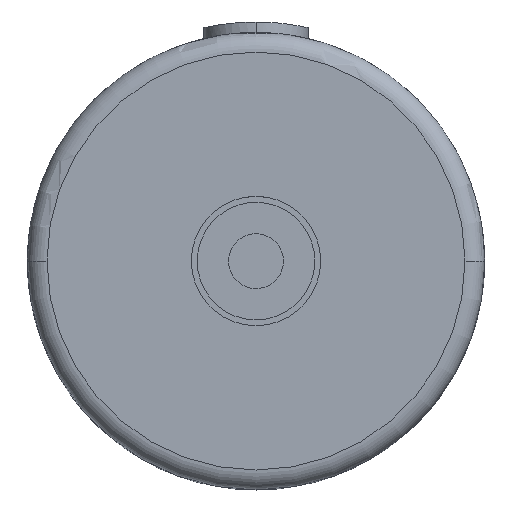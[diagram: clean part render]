
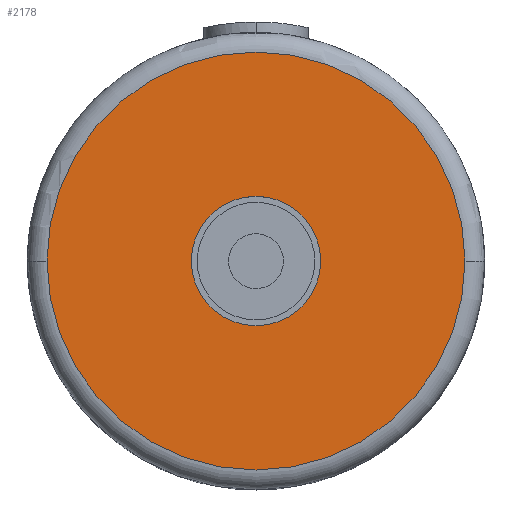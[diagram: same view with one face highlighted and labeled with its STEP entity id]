
A CAD part, top view. The second image highlights one B-rep face of the part: STEP entity #2178.
In plain terms, the highlighted planar face has unit normal (0, 0, 1).
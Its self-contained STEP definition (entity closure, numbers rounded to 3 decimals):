
#166 = FACE_OUTER_BOUND ( 'NONE', #5112, .T. ) ;
#362 = CARTESIAN_POINT ( 'NONE',  ( -6.372, 2.581, 53.246 ) ) ;
#383 = AXIS2_PLACEMENT_3D ( 'NONE', #6067, #6095, #2222 ) ;
#564 = DIRECTION ( 'NONE',  ( 1., 0., 0. ) ) ;
#608 = VERTEX_POINT ( 'NONE', #5330 ) ;
#673 = CARTESIAN_POINT ( 'NONE',  ( -6.372, 2.581, 53.246 ) ) ;
#713 = CARTESIAN_POINT ( 'NONE',  ( -22.372, 2.581, 53.246 ) ) ;
#784 = DIRECTION ( 'NONE',  ( 0., 0., 1. ) ) ;
#821 = DIRECTION ( 'NONE',  ( 1., 0., 0. ) ) ;
#826 = FACE_BOUND ( 'NONE', #2701, .T. ) ;
#1134 = CARTESIAN_POINT ( 'NONE',  ( 9.628, 2.581, 53.246 ) ) ;
#1161 = CIRCLE ( 'NONE', #2981, 16. ) ;
#1274 = EDGE_CURVE ( 'NONE', #608, #1619, #6155, .T. ) ;
#1617 = DIRECTION ( 'NONE',  ( 1., 0., 0. ) ) ;
#1619 = VERTEX_POINT ( 'NONE', #2289 ) ;
#1813 = CIRCLE ( 'NONE', #2350, 16. ) ;
#2090 = EDGE_CURVE ( 'NONE', #2255, #3087, #1813, .T. ) ;
#2144 = CARTESIAN_POINT ( 'NONE',  ( -6.372, 2.581, 53.246 ) ) ;
#2178 = ADVANCED_FACE ( 'NONE', ( #166, #826 ), #5439, .F. ) ;
#2222 = DIRECTION ( 'NONE',  ( 1., 0., 0. ) ) ;
#2238 = EDGE_CURVE ( 'NONE', #3087, #2255, #1161, .T. ) ;
#2255 = VERTEX_POINT ( 'NONE', #713 ) ;
#2270 = ORIENTED_EDGE ( 'NONE', *, *, #1274, .T. ) ;
#2289 = CARTESIAN_POINT ( 'NONE',  ( -1.422, 2.581, 53.246 ) ) ;
#2350 = AXIS2_PLACEMENT_3D ( 'NONE', #362, #784, #821 ) ;
#2546 = ORIENTED_EDGE ( 'NONE', *, *, #5764, .T. ) ;
#2701 = EDGE_LOOP ( 'NONE', ( #2546, #2270 ) ) ;
#2953 = CARTESIAN_POINT ( 'NONE',  ( -6.372, 2.581, 53.246 ) ) ;
#2981 = AXIS2_PLACEMENT_3D ( 'NONE', #673, #3574, #3506 ) ;
#3070 = DIRECTION ( 'NONE',  ( 0., 0., -1. ) ) ;
#3087 = VERTEX_POINT ( 'NONE', #1134 ) ;
#3432 = DIRECTION ( 'NONE',  ( 0., 0., -1. ) ) ;
#3506 = DIRECTION ( 'NONE',  ( 1., 0., 0. ) ) ;
#3574 = DIRECTION ( 'NONE',  ( 0., 0., 1. ) ) ;
#3784 = ORIENTED_EDGE ( 'NONE', *, *, #2090, .T. ) ;
#4097 = CIRCLE ( 'NONE', #5156, 4.95 ) ;
#4529 = ORIENTED_EDGE ( 'NONE', *, *, #2238, .T. ) ;
#4837 = AXIS2_PLACEMENT_3D ( 'NONE', #2144, #3070, #1617 ) ;
#5112 = EDGE_LOOP ( 'NONE', ( #4529, #3784 ) ) ;
#5156 = AXIS2_PLACEMENT_3D ( 'NONE', #2953, #3432, #564 ) ;
#5330 = CARTESIAN_POINT ( 'NONE',  ( -11.322, 2.581, 53.246 ) ) ;
#5439 = PLANE ( 'NONE',  #4837 ) ;
#5764 = EDGE_CURVE ( 'NONE', #1619, #608, #4097, .T. ) ;
#6067 = CARTESIAN_POINT ( 'NONE',  ( -6.372, 2.581, 53.246 ) ) ;
#6095 = DIRECTION ( 'NONE',  ( 0., 0., -1. ) ) ;
#6155 = CIRCLE ( 'NONE', #383, 4.95 ) ;
